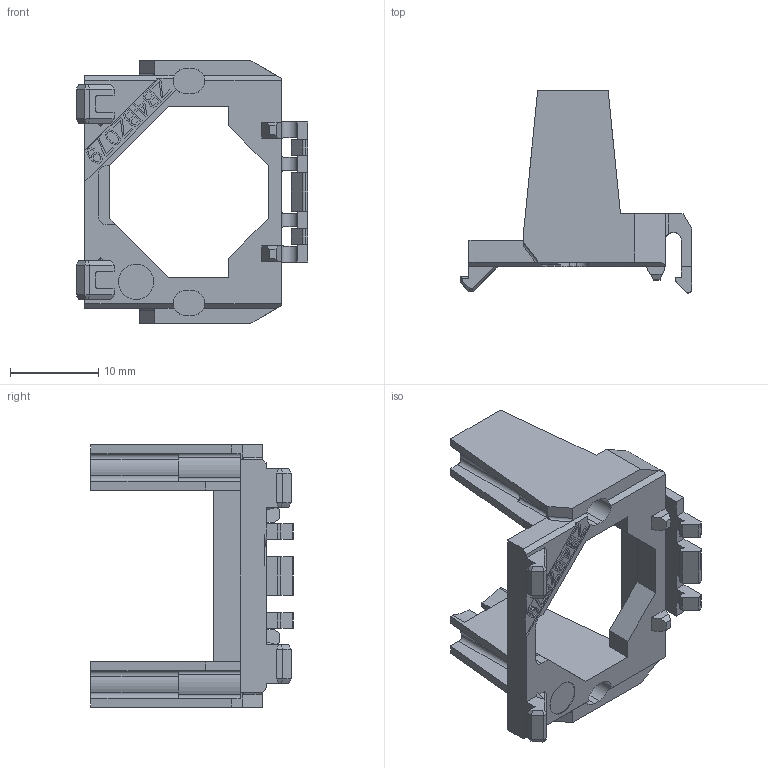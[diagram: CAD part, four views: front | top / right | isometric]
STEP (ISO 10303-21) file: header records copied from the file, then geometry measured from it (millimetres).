
FILE_DESCRIPTION((''),'2;1');
FILE_NAME('1528177A50','2017-03-14T',('SESA46431'),('Schneider-Electric'),'PRO/ENGINEER BY PARAMETRIC TECHNOLOGY CORPORATION, 2015440','PRO/ENGINEER BY PARAMETRIC TECHNOLOGY CORPORATION, 2015440','');
FILE_SCHEMA(('CONFIG_CONTROL_DESIGN'));
Length unit declared in the file: millimetre
Products named in the file (1): 1528177A50
Bounding box: 26.3 x 22.95 x 29.8 mm (x, y, z)
Volume: 2040.8 mm3; surface area: 3623.8 mm2
Topology: 1 solids, 1 shells, 518 faces, 1489 edges, 984 vertices
Faces by surface type: plane 437, cylinder 80, bspline 1
Entity records: 16860 total; most frequent: CARTESIAN_POINT 3129, ORIENTED_EDGE 2978, DIRECTION 2652, EDGE_CURVE 1489, VECTOR 1316, LINE 1316, VERTEX_POINT 984, AXIS2_PLACEMENT_3D 668
